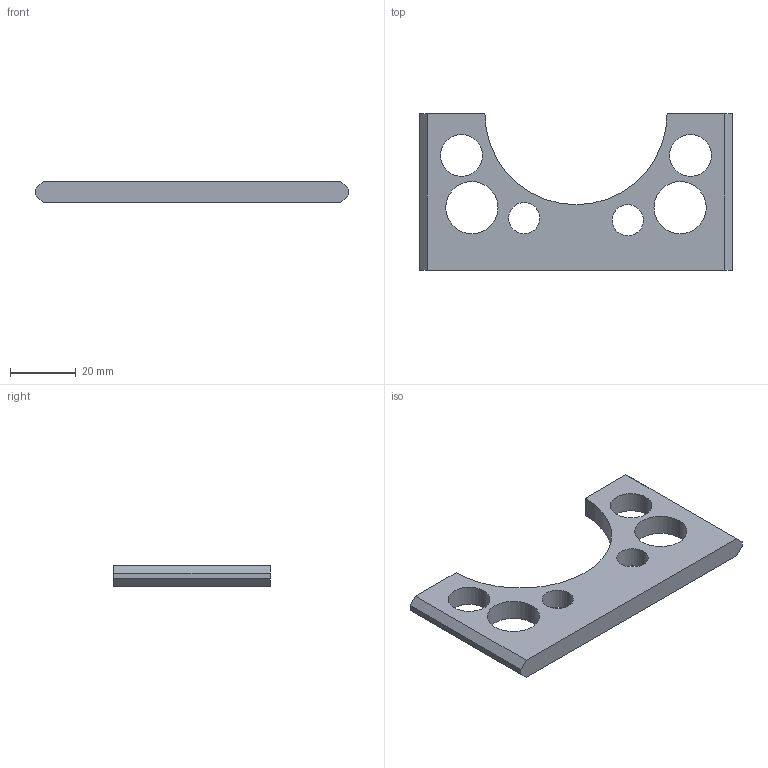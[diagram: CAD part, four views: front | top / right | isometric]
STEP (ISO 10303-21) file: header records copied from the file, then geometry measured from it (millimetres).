
FILE_DESCRIPTION (( 'STEP AP203' ), '1' );
FILE_NAME ('269-18-224.STEP', '2020-03-03T17:58:16', ( '' ), ( '' ), 'SwSTEP 2.0', 'SolidWorks 2017', '' );
FILE_SCHEMA (( 'CONFIG_CONTROL_DESIGN' ));
Length unit declared in the file: inch
Products named in the file (1): 269-18-224
Bounding box: 95 x 47.62 x 6.35 mm (x, y, z)
Volume: 15557.7 mm3; surface area: 8312.9 mm2
Topology: 1 solids, 1 shells, 24 faces, 66 edges, 44 vertices
Faces by surface type: cylinder 13, plane 11
Entity records: 879 total; most frequent: DIRECTION 142, CARTESIAN_POINT 135, ORIENTED_EDGE 132, EDGE_CURVE 66, AXIS2_PLACEMENT_3D 51, VERTEX_POINT 44, LINE 40, VECTOR 40
